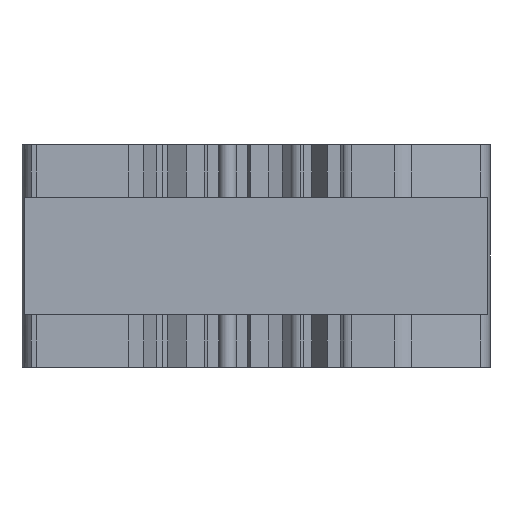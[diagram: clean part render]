
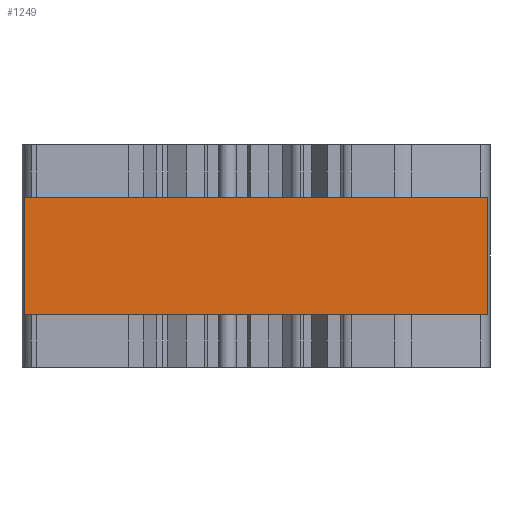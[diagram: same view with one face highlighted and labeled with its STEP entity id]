
A CAD part, front view. The second image highlights one B-rep face of the part: STEP entity #1249.
In plain terms, the highlighted planar face has unit normal (0, -1, 0).
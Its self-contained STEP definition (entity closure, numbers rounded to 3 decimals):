
#258 = DIRECTION ( 'NONE',  ( 0., 0., 1. ) ) ;
#273 = EDGE_CURVE ( 'NONE', #4101, #5366, #321, .T. ) ;
#295 = DIRECTION ( 'NONE',  ( 1., 0., 0. ) ) ;
#321 = LINE ( 'NONE', #1980, #874 ) ;
#390 = EDGE_CURVE ( 'NONE', #1835, #4363, #3632, .T. ) ;
#418 = ORIENTED_EDGE ( 'NONE', *, *, #273, .T. ) ;
#539 = DIRECTION ( 'NONE',  ( 0., 1., 0. ) ) ;
#696 = CARTESIAN_POINT ( 'NONE',  ( -44.739, -0.45, 32.5 ) ) ;
#710 = PLANE ( 'NONE',  #3801 ) ;
#874 = VECTOR ( 'NONE', #1168, 1000. ) ;
#1151 = EDGE_LOOP ( 'NONE', ( #2131, #1709, #418, #2274 ) ) ;
#1168 = DIRECTION ( 'NONE',  ( 1., 0., 0. ) ) ;
#1249 = ADVANCED_FACE ( 'NONE', ( #3999 ), #710, .F. ) ;
#1311 = VECTOR ( 'NONE', #4255, 1000. ) ;
#1332 = CARTESIAN_POINT ( 'NONE',  ( -44.306, -0.45, 32.5 ) ) ;
#1520 = CARTESIAN_POINT ( 'NONE',  ( -44.306, -0.45, 10. ) ) ;
#1709 = ORIENTED_EDGE ( 'NONE', *, *, #1843, .T. ) ;
#1835 = VERTEX_POINT ( 'NONE', #1332 ) ;
#1843 = EDGE_CURVE ( 'NONE', #1835, #4101, #3876, .T. ) ;
#1980 = CARTESIAN_POINT ( 'NONE',  ( -44.739, -0.45, 10. ) ) ;
#2027 = CARTESIAN_POINT ( 'NONE',  ( 44.306, -0.45, 10. ) ) ;
#2131 = ORIENTED_EDGE ( 'NONE', *, *, #390, .F. ) ;
#2274 = ORIENTED_EDGE ( 'NONE', *, *, #4291, .F. ) ;
#2340 = DIRECTION ( 'NONE',  ( 0., 0., -1. ) ) ;
#2676 = CARTESIAN_POINT ( 'NONE',  ( 44.306, -0.45, 42.5 ) ) ;
#2882 = VECTOR ( 'NONE', #2340, 1000. ) ;
#3044 = CARTESIAN_POINT ( 'NONE',  ( -44.739, -0.45, 32.5 ) ) ;
#3128 = CARTESIAN_POINT ( 'NONE',  ( 44.306, -0.45, 32.5 ) ) ;
#3567 = LINE ( 'NONE', #2676, #2882 ) ;
#3632 = LINE ( 'NONE', #696, #4892 ) ;
#3801 = AXIS2_PLACEMENT_3D ( 'NONE', #3044, #539, #258 ) ;
#3876 = LINE ( 'NONE', #4306, #1311 ) ;
#3999 = FACE_OUTER_BOUND ( 'NONE', #1151, .T. ) ;
#4101 = VERTEX_POINT ( 'NONE', #1520 ) ;
#4255 = DIRECTION ( 'NONE',  ( 0., 0., -1. ) ) ;
#4291 = EDGE_CURVE ( 'NONE', #4363, #5366, #3567, .T. ) ;
#4306 = CARTESIAN_POINT ( 'NONE',  ( -44.306, -0.45, 42.5 ) ) ;
#4363 = VERTEX_POINT ( 'NONE', #3128 ) ;
#4892 = VECTOR ( 'NONE', #295, 1000. ) ;
#5366 = VERTEX_POINT ( 'NONE', #2027 ) ;
